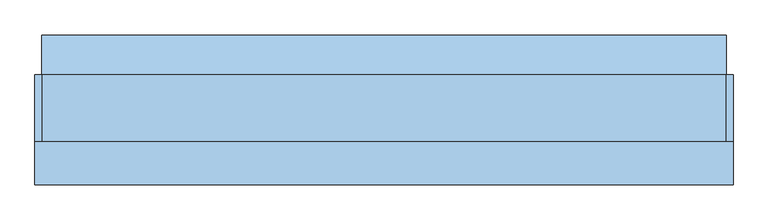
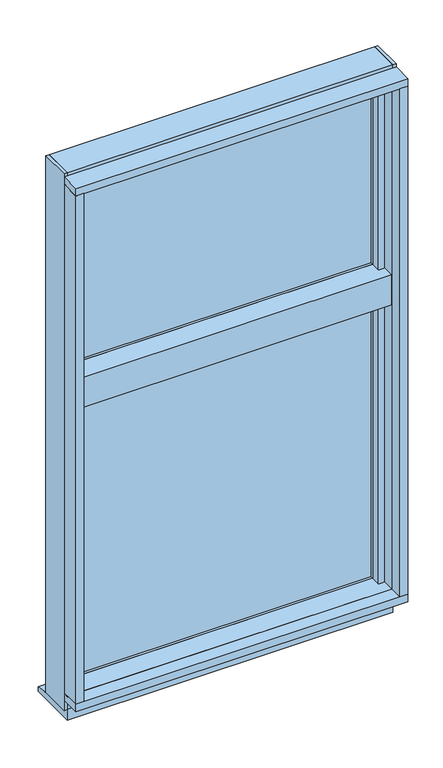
"""IFC4 building model written with IfcOpenShell, lengths in millimetres: window geometry, FNSⅡ100R_個別防火_RC枠_段窓 : FIX/FIX 単."""

from ifc_helpers import new_model, si_unit, frame, origin, place, context, project, spatial, polyline, outline, extrude, faceted_brep, source, transform, mapped, element, save


def window_1165047f(model_context):
    return source(origin(), model_context, "Body", "SolidModel", [
        extrude(outline(polyline([(-480.0, 20.6), (480.0, 20.6), (480.0, 14.6), (-480.0, 14.6), (-480.0, 20.6)])), frame((0.0, 0.0, 1950.0), z_axis=(0.0, 0.0, 1.0), x_axis=(1.0, 0.0, 0.0)), (0.0, 0.0, 1.0), 650.0),
        extrude(outline(polyline([(-480.0, 38.6), (480.0, 38.6), (480.0, 32.6), (-480.0, 32.6), (-480.0, 38.6)])), frame((0.0, 0.0, 1950.0), z_axis=(0.0, 0.0, 1.0), x_axis=(1.0, 0.0, 0.0)), (0.0, 0.0, 1.0), 650.0),
        extrude(outline(polyline([(-480.0, 20.6), (480.0, 20.6), (480.0, 14.6), (-480.0, 14.6), (-480.0, 20.6)])), frame((0.0, 0.0, 900.0), z_axis=(0.0, 0.0, 1.0), x_axis=(1.0, 0.0, 0.0)), (0.0, 0.0, 1.0), 950.0),
        extrude(outline(polyline([(-480.0, 38.6), (480.0, 38.6), (480.0, 32.6), (-480.0, 32.6), (-480.0, 38.6)])), frame((0.0, 0.0, 900.0), z_axis=(0.0, 0.0, 1.0), x_axis=(1.0, 0.0, 0.0)), (0.0, 0.0, 1.0), 950.0),
        faceted_brep([(-525.0, 55.0, 840.0), (-515.0, 55.0, 840.0), (-515.0, -45.0, 840.0), (-525.0, -45.0, 840.0), (-525.0, 55.0, 2635.0), (-515.0, 55.0, 2635.0), (-515.0, 55.0, 2600.0), (-480.0, 55.0, 2600.0), (-480.0, 55.0, 900.0), (-515.0, 55.0, 900.0), (-515.0, -45.0, 2635.0), (-515.0, 5.0, 900.0), (-515.0, 5.0, 2600.0), (-525.0, -45.0, 2635.0), (-480.0, 5.0, 900.0), (-480.0, 5.0, 2600.0)], [[[0, 1, 2, 3]], [[4, 5, 6, 7, 8, 9, 1, 0]], [[5, 10, 2, 1, 9, 11, 12, 6]], [[10, 13, 3, 2]], [[13, 4, 0, 3]], [[8, 14, 11, 9]], [[15, 12, 11, 14]], [[7, 15, 14, 8]], [[4, 13, 10, 5]], [[7, 6, 12, 15]]]),
        faceted_brep([(525.0, 55.0, 840.0), (525.0, -45.0, 840.0), (515.0, -45.0, 840.0), (515.0, 55.0, 840.0), (525.0, 55.0, 2635.0), (525.0, -45.0, 2635.0), (515.0, -45.0, 2635.0), (515.0, 55.0, 2635.0), (515.0, 55.0, 2600.0), (515.0, 5.0, 2600.0), (515.0, 5.0, 900.0), (515.0, 55.0, 900.0), (480.0, 55.0, 900.0), (480.0, 55.0, 2600.0), (480.0, 5.0, 900.0), (480.0, 5.0, 2600.0)], [[[0, 1, 2, 3]], [[4, 5, 1, 0]], [[5, 6, 2, 1]], [[6, 7, 8, 9, 10, 11, 3, 2]], [[7, 4, 0, 3, 11, 12, 13, 8]], [[10, 14, 12, 11]], [[15, 13, 12, 14]], [[9, 15, 14, 10]], [[4, 7, 6, 5]], [[8, 13, 15, 9]]]),
        extrude(outline(polyline([(500.0, -65.0), (500.0, -26.5), (480.0, -26.5), (480.0, 5.0), (515.0, 5.0), (515.0, -45.0), (503.0, -45.0), (503.0, -65.0), (500.0, -65.0)])), frame((0.0, 0.0, 900.0), z_axis=(0.0, 0.0, 1.0), x_axis=(1.0, 0.0, 0.0)), (0.0, 0.0, 1.0), 1700.0),
        extrude(outline(polyline([(-515.0, -45.0), (-515.0, 5.0), (-480.0, 5.0), (-480.0, -26.5), (-500.0, -26.5), (-500.0, -65.0), (-503.0, -65.0), (-503.0, -45.0), (-515.0, -45.0)])), frame((0.0, 0.0, 900.0), z_axis=(0.0, 0.0, 1.0), x_axis=(1.0, 0.0, 0.0)), (0.0, 0.0, 1.0), 1700.0),
        extrude(outline(polyline([(-45.0, 884.0), (-45.0, 897.0), (-65.0, 897.0), (-65.0, 900.0), (5.0, 900.0), (5.0, 884.0), (-45.0, 884.0)])), frame((-503.0, 0.0, 0.0), z_axis=(1.0, 0.0, 0.0), x_axis=(0.0, 1.0, 0.0)), (0.0, 0.0, 1.0), 1006.0),
        extrude(outline(polyline([(55.0, 840.0), (-45.0, 840.0), (-45.0, 884.0), (5.0, 884.0), (5.0, 900.0), (55.0, 900.0), (55.0, 870.0), (36.0, 870.0), (36.0, 850.0), (55.0, 850.0), (55.0, 840.0)])), frame((-515.0, 0.0, 0.0), z_axis=(1.0, 0.0, 0.0), x_axis=(0.0, 1.0, 0.0)), (0.0, 0.0, 1.0), 1030.0),
        extrude(outline(polyline([(5.0, 1936.0), (-45.0, 1936.0), (-45.0, 1865.0), (5.0, 1865.0), (5.0, 1850.0), (-65.0, 1850.0), (-65.0, 1950.0), (5.0, 1950.0), (5.0, 1936.0)])), frame((-500.0, 0.0, 0.0), z_axis=(1.0, 0.0, 0.0), x_axis=(0.0, 1.0, 0.0)), (0.0, 0.0, 1.0), 1000.0),
        extrude(outline(polyline([(55.0, 1850.0), (5.0, 1850.0), (5.0, 1865.0), (-45.0, 1865.0), (-45.0, 1936.0), (5.0, 1936.0), (5.0, 1950.0), (55.0, 1950.0), (55.0, 1920.0), (36.0, 1920.0), (36.0, 1904.0), (45.5, 1900.0), (55.0, 1900.0), (55.0, 1850.0)])), frame((-480.0, 0.0, 0.0), z_axis=(1.0, 0.0, 0.0), x_axis=(0.0, 1.0, 0.0)), (0.0, 0.0, 1.0), 960.0),
        extrude(outline(polyline([(5.0, 2600.0), (-65.0, 2600.0), (-65.0, 2603.0), (-45.0, 2603.0), (-45.0, 2615.0), (5.0, 2615.0), (5.0, 2600.0)])), frame((-503.0, 0.0, 0.0), z_axis=(1.0, 0.0, 0.0), x_axis=(0.0, 1.0, 0.0)), (0.0, 0.0, 1.0), 1006.0),
        extrude(outline(polyline([(55.0, 2600.0), (5.0, 2600.0), (5.0, 2615.0), (-45.0, 2615.0), (-45.0, 2635.0), (55.0, 2635.0), (55.0, 2600.0)])), frame((-515.0, 0.0, 0.0), z_axis=(1.0, 0.0, 0.0), x_axis=(0.0, 1.0, 0.0)), (0.0, 0.0, 1.0), 1030.0),
        extrude(outline(polyline([(-110.0, 900.0), (-65.0, 900.0), (-65.0, 897.0), (-45.0, 897.0), (-45.0, 875.0), (-110.0, 875.0), (-110.0, 900.0)])), frame((-525.0, 0.0, 0.0), z_axis=(1.0, 0.0, 0.0), x_axis=(0.0, 1.0, 0.0)), (0.0, 0.0, 1.0), 1050.0),
        extrude(outline(polyline([(45.0, 840.0), (55.0, 840.0), (55.0, 828.4285714), (45.0, 830.0), (45.0, 840.0)])), frame((-515.0, 0.0, 0.0), z_axis=(1.0, 0.0, 0.0), x_axis=(0.0, 1.0, 0.0)), (0.0, 0.0, 1.0), 1030.0),
        extrude(outline(polyline([(-45.0, 804.0), (-45.0, 840.0), (45.0, 840.0), (45.0, 830.0), (115.0, 819.0), (115.0, 804.0), (-45.0, 804.0)])), frame((-515.0, 0.0, 0.0), z_axis=(1.0, 0.0, 0.0), x_axis=(0.0, 1.0, 0.0)), (0.0, 0.0, 1.0), 1030.0),
        extrude(outline(polyline([(503.0, -45.0), (525.0, -45.0), (525.0, -110.0), (500.0, -110.0), (500.0, -65.0), (503.0, -65.0), (503.0, -45.0)])), frame((0.0, 0.0, 900.0), z_axis=(0.0, 0.0, 1.0), x_axis=(1.0, 0.0, 0.0)), (0.0, 0.0, 1.0), 1700.0),
        extrude(outline(polyline([(-503.0, -45.0), (-503.0, -65.0), (-500.0, -65.0), (-500.0, -110.0), (-525.0, -110.0), (-525.0, -45.0), (-503.0, -45.0)])), frame((0.0, 0.0, 900.0), z_axis=(0.0, 0.0, 1.0), x_axis=(1.0, 0.0, 0.0)), (0.0, 0.0, 1.0), 1700.0),
        extrude(outline(polyline([(-110.0, 2625.0), (-45.0, 2625.0), (-45.0, 2603.0), (-65.0, 2603.0), (-65.0, 2600.0), (-110.0, 2600.0), (-110.0, 2625.0)])), frame((-525.0, 0.0, 0.0), z_axis=(1.0, 0.0, 0.0), x_axis=(0.0, 1.0, 0.0)), (0.0, 0.0, 1.0), 1050.0),
    ])


if __name__ == "__main__":
    model = new_model("IFC4")
    model_context = context("Model", 3, world=origin())
    ifc_project = project(units=[si_unit("LENGTHUNIT", "METRE", prefix="MILLI")], contexts=[model_context])
    site = spatial("IfcSite", under=ifc_project)
    building = spatial("IfcBuilding", under=site)
    placement = place(None, origin())
    window_shape = window_1165047f(model_context)
    element("IfcWindow", 1, ObjectType="FNSⅡ100R_個別防火_RC枠_段窓 : FIX/FIX 単", at=placement, inside=building, context=model_context, shape_type="MappedRepresentation", body=[
        mapped(window_shape, transform((0.0, 0.0, 0.0), x_axis=(1.0, 0.0, 0.0), y_axis=(0.0, 1.0, 0.0), z_axis=(0.0, 0.0, 1.0))),
    ])
    save(model, "model.ifc")
